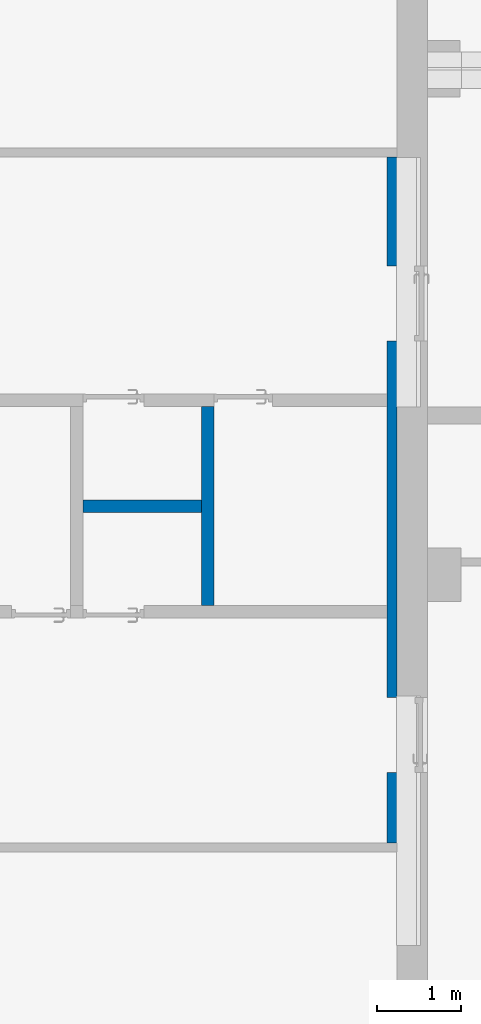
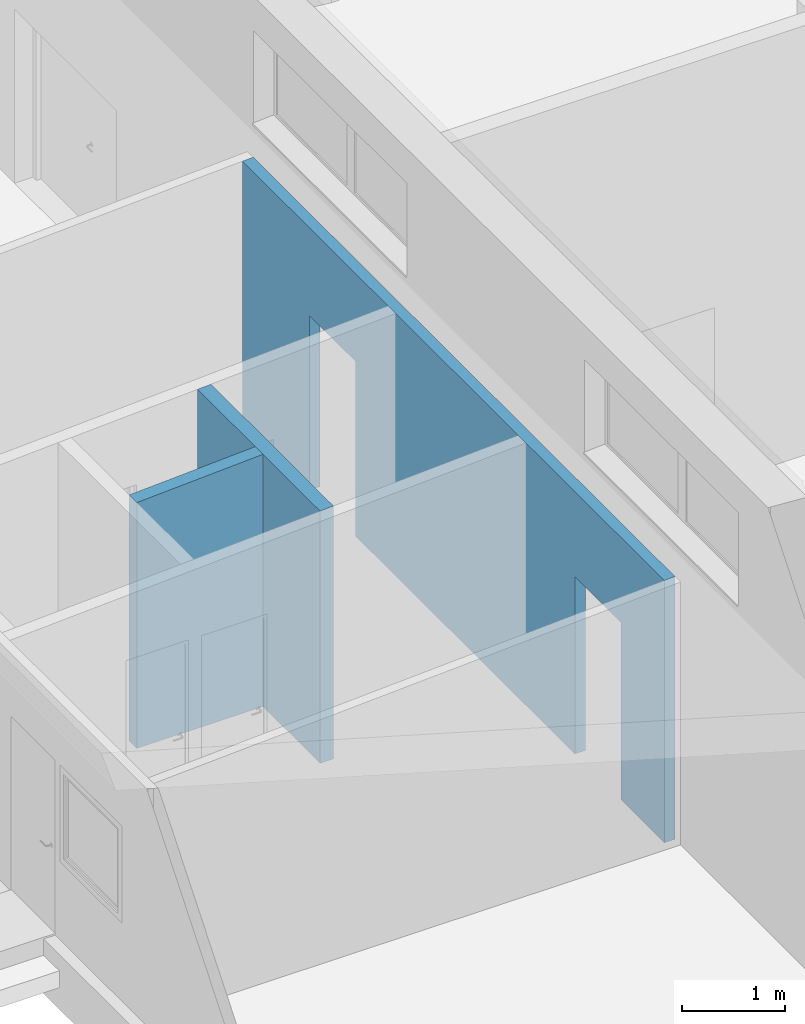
# One storey, part 150 of 301: 3 walls, 2 openings.
"""IFC2X3 building model written with IfcOpenShell, lengths in millimetres."""

from ifc_helpers import new_model, entity, si_unit, converted_unit, derived_unit, money_unit, direction, frame, origin_with_axes, place, context, subcontext, project, spatial, faceted_brep, material, type_object, element, save


model = new_model("IFC2X3")

# Units and contexts
model_context = context("Model", 3, precision=0.01, world=origin_with_axes(), true_north=direction((0.0, 1.0)))
body_context = subcontext(model_context, "Body", "Model", "MODEL_VIEW")
ifc_project = project(units=[si_unit("LENGTHUNIT", "METRE", prefix="MILLI"), si_unit("AREAUNIT", "SQUARE_METRE"), si_unit("VOLUMEUNIT", "CUBIC_METRE"), converted_unit("PLANEANGLEUNIT", "DEGREE", entity("IfcPlaneAngleMeasure", 0.0174532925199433), si_unit("PLANEANGLEUNIT", "RADIAN"), dimensions=[0, 0, 0, 0, 0, 0, 0]), money_unit("EUR"), converted_unit("TIMEUNIT", "Year", entity("IfcTimeMeasure", 31557600.0), si_unit("TIMEUNIT", "SECOND"), dimensions=[0, 0, 1, 0, 0, 0, 0]), si_unit("MASSUNIT", "GRAM", prefix="KILO"), si_unit("THERMODYNAMICTEMPERATUREUNIT", "DEGREE_CELSIUS"), si_unit("LUMINOUSINTENSITYUNIT", "LUMEN"), si_unit("ENERGYUNIT", "JOULE", prefix="MEGA"), derived_unit("THERMALCONDUCTANCEUNIT", [(si_unit("POWERUNIT", "WATT"), 1), (si_unit("LENGTHUNIT", "METRE"), -1), (si_unit("THERMODYNAMICTEMPERATUREUNIT", "KELVIN"), -1)]), derived_unit("SPECIFICHEATCAPACITYUNIT", [(si_unit("ENERGYUNIT", "JOULE"), 1), (si_unit("MASSUNIT", "GRAM", prefix="KILO"), -1), (si_unit("THERMODYNAMICTEMPERATUREUNIT", "KELVIN"), -1)]), derived_unit("MASSDENSITYUNIT", [(si_unit("MASSUNIT", "GRAM", prefix="KILO"), 1), (si_unit("VOLUMEUNIT", "CUBIC_METRE"), -1)])], contexts=[model_context])

# Site, building, storey
site_placement = place(None, frame((0.0, 0.0, 8650.0), z_axis=(0.0, 0.0, 1.0), x_axis=(1.0, 0.0, 0.0)))
site = spatial("IfcSite", under=ifc_project, at=site_placement, Name="43301:001:0844", CompositionType="ELEMENT")
building_placement = place(site_placement, origin_with_axes())
building = spatial("IfcBuilding", under=site, at=building_placement, Name="Kuressaare Ametikooli tuulikute mehaanikute õppekorpus", CompositionType="ELEMENT")
storey_placement = place(building_placement, origin_with_axes())
storey = spatial("IfcBuildingStorey", under=building, at=storey_placement, Name="1.korrus", CompositionType="ELEMENT", Elevation=0.0)

# Walls
ifc_material = material(Name="GENEERILINE - KONSTRUKTRIOON")
wall_type_1 = type_object("IfcWallType", Name="GENEERILINE - KONSTRUKTRIOON 150", PredefinedType="NOTDEFINED")
wall_1_placement = place(storey_placement, frame((85707.83281326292, 94564.79733641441, -330.0), z_axis=(0.0, 0.0, 1.0), x_axis=(0.0, -1.0, 0.0)))
element("IfcWall", 1, at=wall_1_placement, inside=storey, type_object=wall_type_1, material=ifc_material, context=body_context, shape_type="Brep", body=[
    faceted_brep([(150.0000000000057, -150.0000000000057, 2990.730962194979), (150.0000000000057, 0.0, 2998.854581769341), (150.0000000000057, 0.0, 0.0), (150.0000000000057, -150.0000000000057, 0.0), (2528.045600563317, 0.0, 2998.248216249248), (2528.045600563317, -150.0000000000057, 2990.124596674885), (2528.045600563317, 0.0, 0.0), (2528.045600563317, -150.0000000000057, 0.0)], [[[0, 1, 2, 3]], [[4, 1, 0, 5]], [[1, 4, 6, 2]], [[2, 6, 7, 3]], [[5, 0, 3, 7]], [[4, 5, 7, 6]]]),
])
wall_2_placement = place(storey_placement, frame((85707.83281326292, 93294.79733641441, -330.0), z_axis=(0.0, 0.0, 1.0), x_axis=(-1.0, 0.0, 0.0)))
element("IfcWall", 2, at=wall_2_placement, inside=storey, type_object=wall_type_1, material=ifc_material, context=body_context, shape_type="Brep", body=[
    faceted_brep([(1563.888517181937, 0.0, 2913.872762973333), (150.0000000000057, 0.0, 2990.445379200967), (150.0000000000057, 0.0, 0.0), (1563.888517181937, 0.0, 0.0), (150.0000000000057, 150.0000000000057, 2990.407131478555), (1563.888517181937, 150.0000000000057, 2913.83451525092), (150.0000000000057, 150.0000000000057, 0.0), (1563.888517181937, 150.0000000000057, 0.0)], [[[0, 1, 2, 3]], [[4, 1, 0, 5]], [[1, 4, 6, 2]], [[6, 7, 3, 2]], [[5, 0, 3, 7]], [[4, 5, 7, 6]]]),
])

# Wall, openings
wall_type_2 = type_object("IfcWallType", Name="GENEERILINE - KONSTRUKTRIOON 120", PredefinedType="NOTDEFINED")
wall_3_placement = place(storey_placement, frame((87898.75644683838, 89200.79648192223, -330.0), z_axis=(0.0, 0.0, 1.0), x_axis=(0.0, 1.0, 0.0)))
wall_3 = element("IfcWall", 3, at=wall_3_placement, inside=storey, type_object=wall_type_2, material=ifc_material, Name="SS-XX", context=body_context, shape_type="Brep", body=[
    faceted_brep([(1737.540997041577, 0.0, 2100.0), (1737.540997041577, 0.0, 0.0), (5992.090466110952, 0.0, 0.0), (5992.090466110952, 0.0, 2070.0), (6892.090466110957, 0.0, 2070.0), (6892.090466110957, 0.0, 0.0), (8189.999999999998, 0.0, 0.0), (8189.999999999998, 0.0, 3118.268283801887), (0.0, 0.0, 3116.179958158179), (0.0, 0.0, 0.0), (837.5409970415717, 0.0, 0.0), (837.5409970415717, 0.0, 2100.0), (1737.540997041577, 120.0000000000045, 2100.0), (1737.540997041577, 120.0000000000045, 0.0), (5992.090466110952, 120.0000000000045, 0.0), (5992.090466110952, 120.0000000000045, 2070.0), (6892.090466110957, 120.0000000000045, 2070.0), (6892.090466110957, 120.0000000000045, 0.0), (8189.999999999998, 120.0000000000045, 0.0), (8189.999999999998, 120.0000000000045, 3111.769388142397), (0.0, 120.0000000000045, 3109.681062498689), (0.0, 120.0000000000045, 0.0), (837.5409970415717, 120.0000000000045, 0.0), (837.5409970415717, 120.0000000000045, 2100.0)], [[[0, 1, 2, 3, 4, 5, 6, 7, 8, 9, 10, 11]], [[12, 13, 1, 0]], [[1, 13, 14, 2]], [[14, 15, 3, 2]], [[15, 16, 4, 3]], [[16, 17, 5, 4]], [[18, 6, 5, 17]], [[18, 19, 7, 6]], [[7, 19, 20, 8]], [[21, 9, 8, 20]], [[9, 21, 22, 10]], [[22, 23, 11, 10]], [[23, 12, 0, 11]], [[17, 16, 15, 14, 13, 12, 23, 22, 21, 20, 19, 18]]]),
])
opening_1_placement = place(wall_3_placement, frame((-89200.79648192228, 87898.75644683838, 330.0000000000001), z_axis=(0.0, 0.0, 1.0), x_axis=(0.0, -1.0, 0.0)))
element("IfcOpeningElement", 4, at=opening_1_placement, cuts=wall_3, Name="ava", context=body_context, shape_type="Brep", body=[
    faceted_brep([(88018.75644683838, 90038.33747896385, -330.0), (88018.75644683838, 90038.33747896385, 1770.0), (87658.75644683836, 90038.33747896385, 1770.0), (87658.75644683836, 90038.33747896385, -330.0), (88018.75644683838, 90938.33747896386, -330.0), (88018.75644683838, 90938.33747896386, 1770.0), (87658.75644683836, 90938.33747896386, 1770.0), (87658.75644683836, 90938.33747896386, -330.0)], [[[0, 1, 2, 3]], [[0, 4, 5, 1]], [[1, 5, 6, 2]], [[3, 2, 6, 7]], [[4, 0, 3, 7]], [[5, 4, 7, 6]]]),
])
opening_2_placement = place(wall_3_placement, frame((-89200.79648192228, 87898.75644683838, 330.0000000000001), z_axis=(0.0, 0.0, 1.0), x_axis=(0.0, -1.0, 0.0)))
element("IfcOpeningElement", 5, at=opening_2_placement, cuts=wall_3, Name="ava", context=body_context, shape_type="Brep", body=[
    faceted_brep([(88018.75644683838, 95192.88694803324, -330.0), (88018.75644683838, 95192.88694803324, 1740.0), (87658.75644683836, 95192.88694803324, 1740.0), (87658.75644683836, 95192.88694803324, -330.0), (88018.75644683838, 96092.88694803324, -330.0), (88018.75644683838, 96092.88694803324, 1740.0), (87658.75644683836, 96092.88694803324, 1740.0), (87658.75644683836, 96092.88694803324, -330.0)], [[[0, 1, 2, 3]], [[0, 4, 5, 1]], [[1, 5, 6, 2]], [[3, 2, 6, 7]], [[4, 0, 3, 7]], [[5, 4, 7, 6]]]),
])

save(model, "model.ifc")
